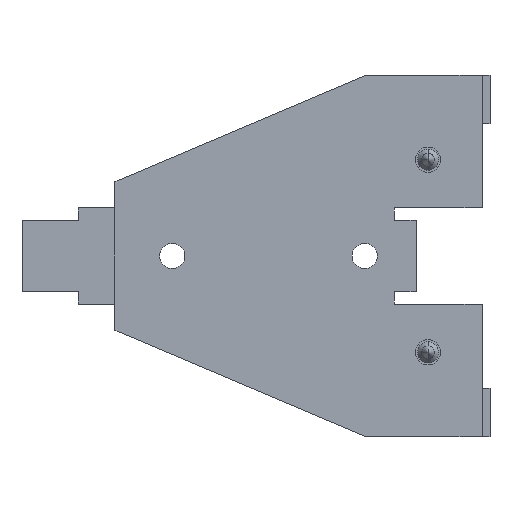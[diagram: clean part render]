
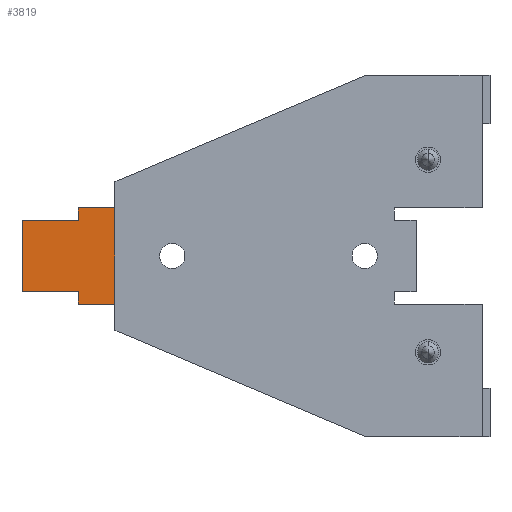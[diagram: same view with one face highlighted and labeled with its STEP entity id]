
A CAD part, left-side view. The second image highlights one B-rep face of the part: STEP entity #3819.
In plain terms, the highlighted planar face has unit normal (-1, 0, 0).
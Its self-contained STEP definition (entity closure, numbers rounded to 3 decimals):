
#112 = EDGE_CURVE ( 'NONE', #2792, #2753, #774, .T. ) ;
#128 = EDGE_CURVE ( 'NONE', #2812, #2754, #799, .T. ) ;
#177 = EDGE_CURVE ( 'NONE', #2792, #2894, #875, .T. ) ;
#200 = EDGE_CURVE ( 'NONE', #2896, #2893, #930, .T. ) ;
#201 = EDGE_CURVE ( 'NONE', #2754, #2753, #925, .T. ) ;
#242 = EDGE_CURVE ( 'NONE', #2894, #2893, #1009, .T. ) ;
#257 = EDGE_CURVE ( 'NONE', #2813, #2896, #1026, .T. ) ;
#774 = LINE ( 'NONE', #3119, #775 ) ;
#775 = VECTOR ( 'NONE', #3120, 1000. ) ;
#790 = VECTOR ( 'NONE', #3155, 1000. ) ;
#799 = LINE ( 'NONE', #3154, #790 ) ;
#875 = LINE ( 'NONE', #3260, #889 ) ;
#889 = VECTOR ( 'NONE', #3264, 1000. ) ;
#925 = LINE ( 'NONE', #3310, #932 ) ;
#930 = LINE ( 'NONE', #3312, #931 ) ;
#931 = VECTOR ( 'NONE', #3313, 1000. ) ;
#932 = VECTOR ( 'NONE', #3315, 1000. ) ;
#1009 = LINE ( 'NONE', #3401, #1010 ) ;
#1010 = VECTOR ( 'NONE', #3402, 1000. ) ;
#1026 = LINE ( 'NONE', #3433, #1032 ) ;
#1032 = VECTOR ( 'NONE', #3434, 1000. ) ;
#1112 = LINE ( 'NONE', #1442, #1132 ) ;
#1132 = VECTOR ( 'NONE', #1459, 1000. ) ;
#1241 = CARTESIAN_POINT ( 'NONE',  ( 1.5, 58.1, 5.9 ) ) ;
#1242 = CARTESIAN_POINT ( 'NONE',  ( 1.5, 58.1, 8. ) ) ;
#1322 = CARTESIAN_POINT ( 'NONE',  ( 1.5, 52., -8. ) ) ;
#1323 = CARTESIAN_POINT ( 'NONE',  ( 1.5, 58.1, -8. ) ) ;
#1325 = CARTESIAN_POINT ( 'NONE',  ( 1.5, 52., 8. ) ) ;
#1442 = CARTESIAN_POINT ( 'NONE',  ( 1.5, 58.1, 30. ) ) ;
#1459 = DIRECTION ( 'NONE',  ( 0., 0., -1. ) ) ;
#2042 = PLANE ( 'NONE',  #4248 ) ;
#2045 = CARTESIAN_POINT ( 'NONE',  ( 1.5, 58.1, 30. ) ) ;
#2051 = DIRECTION ( 'NONE',  ( 1., 0., 0. ) ) ;
#2052 = DIRECTION ( 'NONE',  ( 0., 0., -1. ) ) ;
#2572 = FACE_OUTER_BOUND ( 'NONE', #4455, .T. ) ;
#2753 = VERTEX_POINT ( 'NONE', #3520 ) ;
#2754 = VERTEX_POINT ( 'NONE', #3521 ) ;
#2792 = VERTEX_POINT ( 'NONE', #3723 ) ;
#2812 = VERTEX_POINT ( 'NONE', #1241 ) ;
#2813 = VERTEX_POINT ( 'NONE', #1242 ) ;
#2893 = VERTEX_POINT ( 'NONE', #1322 ) ;
#2894 = VERTEX_POINT ( 'NONE', #1323 ) ;
#2896 = VERTEX_POINT ( 'NONE', #1325 ) ;
#3119 = CARTESIAN_POINT ( 'NONE',  ( 1.5, 67.45, -5.9 ) ) ;
#3120 = DIRECTION ( 'NONE',  ( 0., 1., 0. ) ) ;
#3154 = CARTESIAN_POINT ( 'NONE',  ( 1.5, 67.45, 5.9 ) ) ;
#3155 = DIRECTION ( 'NONE',  ( 0., 1., 0. ) ) ;
#3260 = CARTESIAN_POINT ( 'NONE',  ( 1.5, 58.1, 30. ) ) ;
#3264 = DIRECTION ( 'NONE',  ( 0., 0., -1. ) ) ;
#3310 = CARTESIAN_POINT ( 'NONE',  ( 1.5, 67.45, 15.37 ) ) ;
#3312 = CARTESIAN_POINT ( 'NONE',  ( 1.5, 52., 30. ) ) ;
#3313 = DIRECTION ( 'NONE',  ( 0., 0., -1. ) ) ;
#3315 = DIRECTION ( 'NONE',  ( 0., 0., -1. ) ) ;
#3401 = CARTESIAN_POINT ( 'NONE',  ( 1.5, 58.1, -8. ) ) ;
#3402 = DIRECTION ( 'NONE',  ( 0., -1., 0. ) ) ;
#3433 = CARTESIAN_POINT ( 'NONE',  ( 1.5, 52., 8. ) ) ;
#3434 = DIRECTION ( 'NONE',  ( 0., -1., 0. ) ) ;
#3520 = CARTESIAN_POINT ( 'NONE',  ( 1.5, 67.45, -5.9 ) ) ;
#3521 = CARTESIAN_POINT ( 'NONE',  ( 1.5, 67.45, 5.9 ) ) ;
#3572 = EDGE_CURVE ( 'NONE', #2813, #2812, #1112, .T. ) ;
#3723 = CARTESIAN_POINT ( 'NONE',  ( 1.5, 58.1, -5.9 ) ) ;
#3819 = ADVANCED_FACE ( 'NONE', ( #2572 ), #2042, .F. ) ;
#4248 = AXIS2_PLACEMENT_3D ( 'NONE', #2045, #2051, #2052 ) ;
#4455 = EDGE_LOOP ( 'NONE', ( #4656, #4657, #4658, #4659, #4660, #4661, #4662, #4663 ) ) ;
#4656 = ORIENTED_EDGE ( 'NONE', *, *, #3572, .T. ) ;
#4657 = ORIENTED_EDGE ( 'NONE', *, *, #128, .T. ) ;
#4658 = ORIENTED_EDGE ( 'NONE', *, *, #201, .T. ) ;
#4659 = ORIENTED_EDGE ( 'NONE', *, *, #112, .F. ) ;
#4660 = ORIENTED_EDGE ( 'NONE', *, *, #177, .T. ) ;
#4661 = ORIENTED_EDGE ( 'NONE', *, *, #242, .T. ) ;
#4662 = ORIENTED_EDGE ( 'NONE', *, *, #200, .F. ) ;
#4663 = ORIENTED_EDGE ( 'NONE', *, *, #257, .F. ) ;
